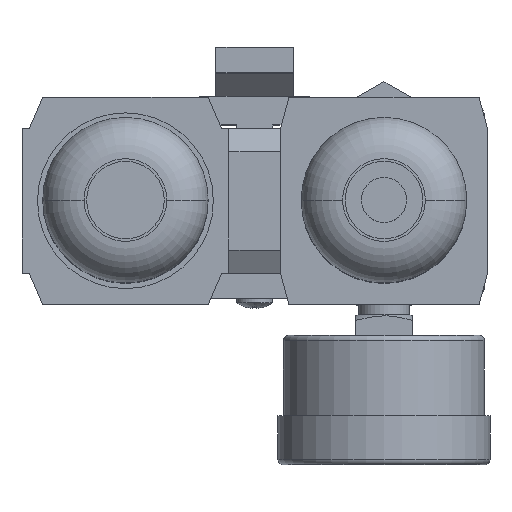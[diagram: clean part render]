
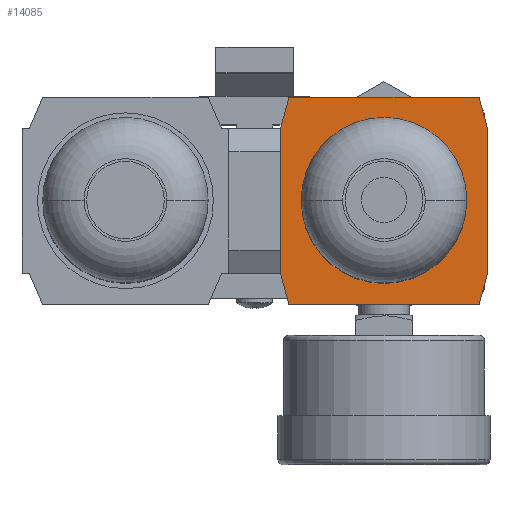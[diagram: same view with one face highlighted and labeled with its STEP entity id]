
A CAD part, top view. The second image highlights one B-rep face of the part: STEP entity #14085.
In plain terms, the highlighted planar face has unit normal (0, 0, 1).
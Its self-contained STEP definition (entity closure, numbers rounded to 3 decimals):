
#49 = CARTESIAN_POINT ( 'NONE',  ( 15., 0., 0. ) ) ;
#365 = CARTESIAN_POINT ( 'NONE',  ( -18.392, -20., 0. ) ) ;
#648 = ORIENTED_EDGE ( 'NONE', *, *, #11606, .T. ) ;
#661 = ORIENTED_EDGE ( 'NONE', *, *, #10367, .F. ) ;
#812 = ORIENTED_EDGE ( 'NONE', *, *, #10388, .T. ) ;
#1155 = VERTEX_POINT ( 'NONE', #14078 ) ;
#1498 = DIRECTION ( 'NONE',  ( 1., 0., 0. ) ) ;
#1662 = VERTEX_POINT ( 'NONE', #2280 ) ;
#1675 = DIRECTION ( 'NONE',  ( -1., 0., 0. ) ) ;
#1782 = ORIENTED_EDGE ( 'NONE', *, *, #14374, .F. ) ;
#1940 = EDGE_LOOP ( 'NONE', ( #7356, #1944, #1782, #4534, #12632, #661, #11295, #12145 ) ) ;
#1944 = ORIENTED_EDGE ( 'NONE', *, *, #14845, .F. ) ;
#2280 = CARTESIAN_POINT ( 'NONE',  ( -15., 0., 0. ) ) ;
#2448 = DIRECTION ( 'NONE',  ( 0., -1., 0. ) ) ;
#2523 = VERTEX_POINT ( 'NONE', #10082 ) ;
#2636 = PLANE ( 'NONE',  #12444 ) ;
#2904 = VECTOR ( 'NONE', #9119, 1000. ) ;
#3077 = CARTESIAN_POINT ( 'NONE',  ( -18.392, -20., 0. ) ) ;
#3551 = DIRECTION ( 'NONE',  ( -0.259, -0.966, 0. ) ) ;
#3591 = LINE ( 'NONE', #8522, #13415 ) ;
#3855 = FACE_OUTER_BOUND ( 'NONE', #1940, .T. ) ;
#4512 = VERTEX_POINT ( 'NONE', #49 ) ;
#4534 = ORIENTED_EDGE ( 'NONE', *, *, #12622, .F. ) ;
#4598 = VECTOR ( 'NONE', #3551, 1000. ) ;
#4874 = AXIS2_PLACEMENT_3D ( 'NONE', #8046, #12014, #10561 ) ;
#4886 = VERTEX_POINT ( 'NONE', #9918 ) ;
#5194 = EDGE_LOOP ( 'NONE', ( #812, #648 ) ) ;
#5425 = CARTESIAN_POINT ( 'NONE',  ( -20., 14., 0. ) ) ;
#5541 = CARTESIAN_POINT ( 'NONE',  ( 0., 0., 0. ) ) ;
#5700 = LINE ( 'NONE', #5781, #12385 ) ;
#5781 = CARTESIAN_POINT ( 'NONE',  ( 18.392, 20., 0. ) ) ;
#6681 = CIRCLE ( 'NONE', #4874, 15. ) ;
#6807 = VERTEX_POINT ( 'NONE', #3077 ) ;
#7071 = VECTOR ( 'NONE', #15469, 1000. ) ;
#7178 = VERTEX_POINT ( 'NONE', #13509 ) ;
#7356 = ORIENTED_EDGE ( 'NONE', *, *, #12218, .F. ) ;
#7369 = LINE ( 'NONE', #12149, #13695 ) ;
#7496 = CARTESIAN_POINT ( 'NONE',  ( -20., -14., 0. ) ) ;
#7574 = DIRECTION ( 'NONE',  ( 1., 0., 0. ) ) ;
#7659 = CARTESIAN_POINT ( 'NONE',  ( -18.392, 20., 0. ) ) ;
#8046 = CARTESIAN_POINT ( 'NONE',  ( 0., 0., 0. ) ) ;
#8511 = VERTEX_POINT ( 'NONE', #7496 ) ;
#8522 = CARTESIAN_POINT ( 'NONE',  ( 20., 14., 0. ) ) ;
#9119 = DIRECTION ( 'NONE',  ( -0.259, 0.966, 0. ) ) ;
#9295 = VERTEX_POINT ( 'NONE', #13619 ) ;
#9499 = DIRECTION ( 'NONE',  ( 1., 0., 0. ) ) ;
#9689 = EDGE_CURVE ( 'NONE', #2523, #11288, #11979, .T. ) ;
#9717 = DIRECTION ( 'NONE',  ( 0., 1., 0. ) ) ;
#9862 = VECTOR ( 'NONE', #1675, 1000. ) ;
#9918 = CARTESIAN_POINT ( 'NONE',  ( 20., -14., 0. ) ) ;
#10082 = CARTESIAN_POINT ( 'NONE',  ( -20., 14., 0. ) ) ;
#10319 = AXIS2_PLACEMENT_3D ( 'NONE', #5541, #10716, #9499 ) ;
#10339 = LINE ( 'NONE', #11791, #9862 ) ;
#10367 = EDGE_CURVE ( 'NONE', #9295, #7178, #5700, .T. ) ;
#10388 = EDGE_CURVE ( 'NONE', #1662, #4512, #12112, .T. ) ;
#10483 = LINE ( 'NONE', #365, #2904 ) ;
#10557 = DIRECTION ( 'NONE',  ( 0.259, -0.966, 0. ) ) ;
#10561 = DIRECTION ( 'NONE',  ( 1., 0., 0. ) ) ;
#10643 = EDGE_CURVE ( 'NONE', #7178, #4886, #3591, .T. ) ;
#10716 = DIRECTION ( 'NONE',  ( 0., 0., -1. ) ) ;
#11288 = VERTEX_POINT ( 'NONE', #11581 ) ;
#11295 = ORIENTED_EDGE ( 'NONE', *, *, #14746, .F. ) ;
#11581 = CARTESIAN_POINT ( 'NONE',  ( -18.392, 20., 0. ) ) ;
#11606 = EDGE_CURVE ( 'NONE', #4512, #1662, #6681, .T. ) ;
#11791 = CARTESIAN_POINT ( 'NONE',  ( 18.392, -20., 0. ) ) ;
#11979 = LINE ( 'NONE', #5425, #7071 ) ;
#12014 = DIRECTION ( 'NONE',  ( 0., 0., -1. ) ) ;
#12112 = CIRCLE ( 'NONE', #10319, 15. ) ;
#12145 = ORIENTED_EDGE ( 'NONE', *, *, #9689, .F. ) ;
#12149 = CARTESIAN_POINT ( 'NONE',  ( -20., -14., 0. ) ) ;
#12218 = EDGE_CURVE ( 'NONE', #8511, #2523, #7369, .T. ) ;
#12385 = VECTOR ( 'NONE', #10557, 1000. ) ;
#12432 = CARTESIAN_POINT ( 'NONE',  ( 0., 0., 0. ) ) ;
#12444 = AXIS2_PLACEMENT_3D ( 'NONE', #12432, #13489, #7574 ) ;
#12518 = LINE ( 'NONE', #7659, #14799 ) ;
#12622 = EDGE_CURVE ( 'NONE', #4886, #1155, #15865, .T. ) ;
#12632 = ORIENTED_EDGE ( 'NONE', *, *, #10643, .F. ) ;
#13415 = VECTOR ( 'NONE', #2448, 1000. ) ;
#13489 = DIRECTION ( 'NONE',  ( 0., 0., -1. ) ) ;
#13509 = CARTESIAN_POINT ( 'NONE',  ( 20., 14., 0. ) ) ;
#13619 = CARTESIAN_POINT ( 'NONE',  ( 18.392, 20., 0. ) ) ;
#13695 = VECTOR ( 'NONE', #9717, 1000. ) ;
#13744 = FACE_BOUND ( 'NONE', #5194, .T. ) ;
#14078 = CARTESIAN_POINT ( 'NONE',  ( 18.392, -20., 0. ) ) ;
#14085 = ADVANCED_FACE ( 'NONE', ( #3855, #13744 ), #2636, .F. ) ;
#14374 = EDGE_CURVE ( 'NONE', #1155, #6807, #10339, .T. ) ;
#14649 = CARTESIAN_POINT ( 'NONE',  ( 20., -14., 0. ) ) ;
#14746 = EDGE_CURVE ( 'NONE', #11288, #9295, #12518, .T. ) ;
#14799 = VECTOR ( 'NONE', #1498, 1000. ) ;
#14845 = EDGE_CURVE ( 'NONE', #6807, #8511, #10483, .T. ) ;
#15469 = DIRECTION ( 'NONE',  ( 0.259, 0.966, 0. ) ) ;
#15865 = LINE ( 'NONE', #14649, #4598 ) ;
